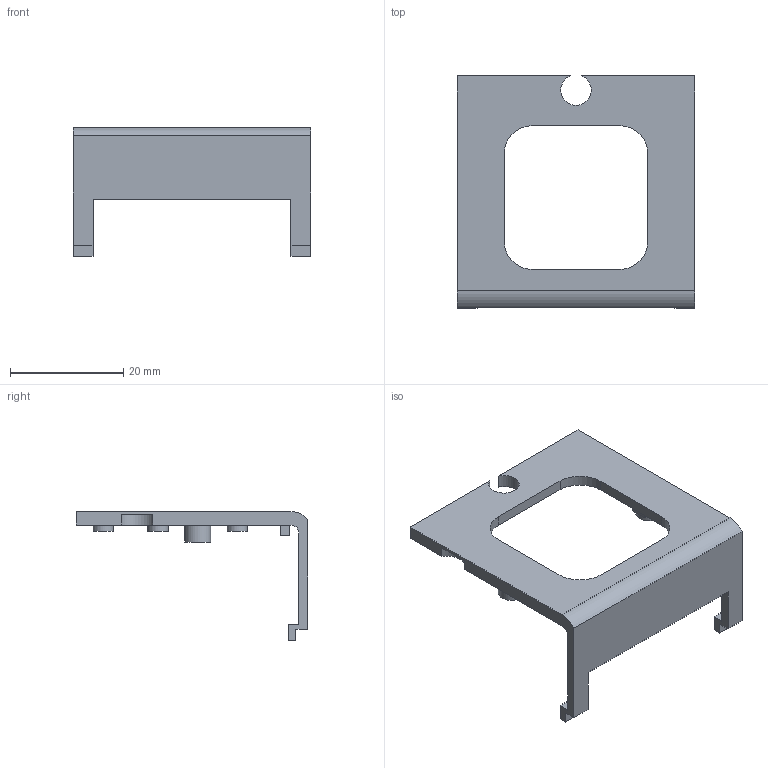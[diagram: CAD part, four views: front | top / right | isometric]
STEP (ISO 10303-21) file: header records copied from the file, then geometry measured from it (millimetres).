
FILE_DESCRIPTION(('Open CASCADE Model'),'2;1');
FILE_NAME('Open CASCADE Shape Model','2026-09-06T11:45:45',('Author'),( 'Open CASCADE'),'Open CASCADE STEP processor 7.7','Open CASCADE 7.7' ,'Unknown');
FILE_SCHEMA(('AUTOMOTIVE_DESIGN { 1 0 10303 214 1 1 1 1 }'));
Length unit declared in the file: millimetre
Products named in the file (1): Open CASCADE STEP translator 7.7 7
Bounding box: 42 x 41 x 22.8 mm (x, y, z)
Volume: 3383.1 mm3; surface area: 4114.2 mm2
Topology: 1 solids, 1 shells, 95 faces, 246 edges, 164 vertices
Faces by surface type: plane 71, cylinder 24
Full cylindrical faces by diameter (mm): 1.1 x2, 1.25 x4, 3.6 x4, 4.6 x2
Entity records: 6105 total; most frequent: CARTESIAN_POINT 1204, DIRECTION 891, LINE 566, VECTOR 566, ORIENTED_EDGE 492, PCURVE 492, DEFINITIONAL_REPRESENTATION 492, EDGE_CURVE 246
